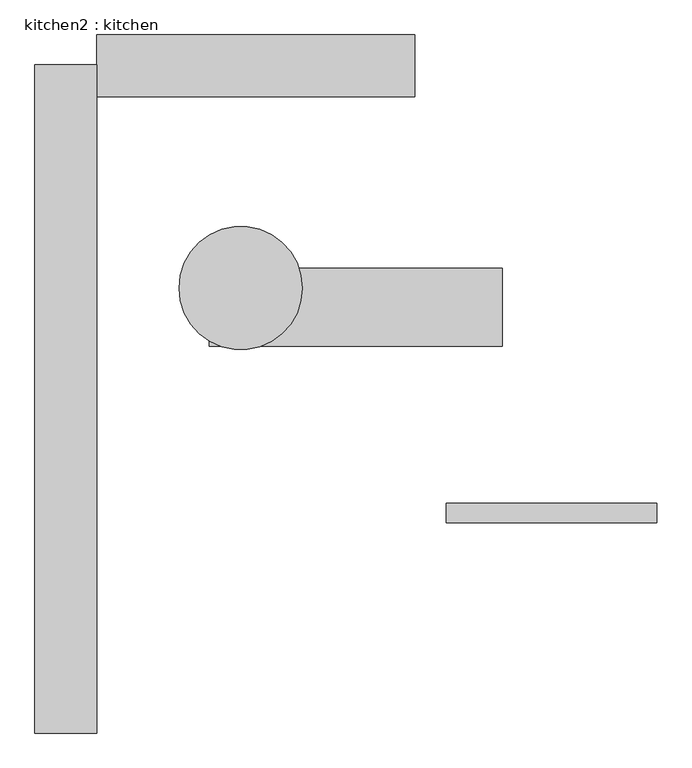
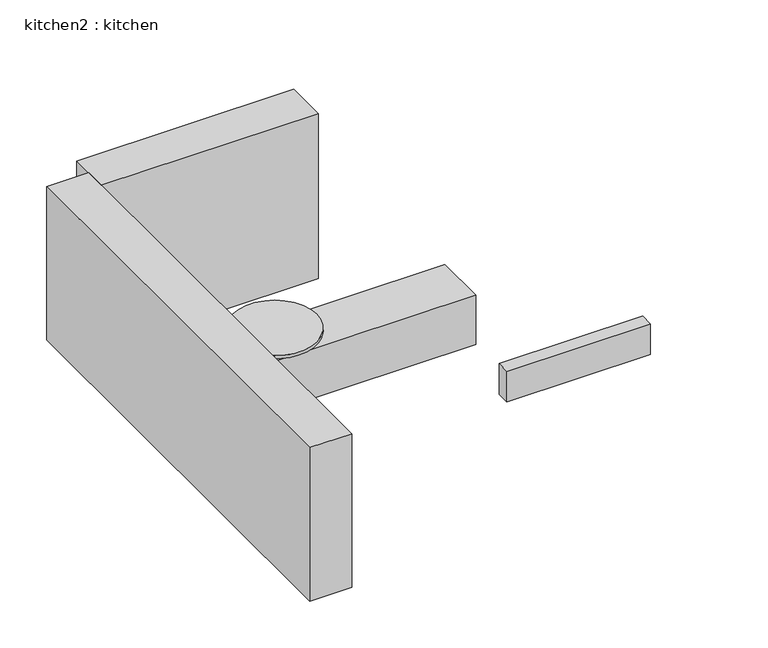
"""IFC4 building model written with IfcOpenShell, lengths in millimetres: proxy geometry, kitchen2 : kitchen."""

from ifc_helpers import new_model, si_unit, point, frame, frame_2d, origin, origin_with_axes, place, context, project, spatial, polyline, circle_curve, trimmed, segment, composite_curve, outline, extrude, source, transform, mapped, element, save


def kitchen2_kitchen_f6e05b14(model_context):
    return source(origin(), model_context, "Body", "SweptSolid", [
        extrude(outline(composite_curve([segment(trimmed(circle_curve(frame_2d((89416.0556586, -40371.1388406)), 20.0), [point((89396.0556586, -40371.1388406))], [point((89436.0556586, -40371.1388406))], False, "CARTESIAN"), True, "CONTINUOUS"), segment(trimmed(circle_curve(frame_2d((89416.0556586, -40371.1388406)), 20.0), [point((89436.0556586, -40371.1388406))], [point((89396.0556586, -40371.1388406))], False, "CARTESIAN"), True, "CONTINUOUS")], self_intersect=False)), origin_with_axes(), (0.0, 0.0, 1.0), 750.0),
        extrude(outline(polyline([(91627.1267853, -42606.9890906), (93677.1267853, -42606.9890906), (93677.1267853, -42797.4205618), (91627.1267853, -42797.4205618), (91627.1267853, -42606.9890906)])), frame((0.0, 0.0, 366.6853524), z_axis=(0.0, 0.0, 1.0), x_axis=(1.0, 0.0, 0.0)), (0.0, 0.0, 1.0), 463.3146476),
        extrude(outline(polyline([(88223.5455637, -38338.529662), (88223.5455637, -44847.0203739), (87622.8142829, -44847.0203739), (87622.8142829, -38338.529662), (88223.5455637, -38338.529662)])), origin_with_axes(), (0.0, 0.0, 1.0), 2319.8522508),
        extrude(outline(polyline([(91323.5455637, -38648.8343253), (88223.5455637, -38648.8343253), (88223.5455637, -38048.8343253), (91323.5455637, -38048.8343253), (91323.5455637, -38648.8343253)])), frame((0.0, 0.0, -180.1477492), z_axis=(0.0, 0.0, 1.0), x_axis=(1.0, 0.0, 0.0)), (0.0, 0.0, 1.0), 2500.0),
        extrude(outline(polyline([(92171.9479258, -40320.028575), (92171.9479258, -41078.8120116), (89322.8142829, -41078.8120116), (89322.8142829, -40320.028575), (92171.9479258, -40320.028575)])), origin_with_axes(), (0.0, 0.0, 1.0), 750.0),
        extrude(outline(composite_curve([segment(trimmed(circle_curve(frame_2d((89626.870939, -40513.5548861)), 600.0), [point((89026.870939, -40513.5548861))], [point((90226.870939, -40513.5548861))], False, "CARTESIAN"), True, "CONTINUOUS"), segment(trimmed(circle_curve(frame_2d((89626.870939, -40513.5548861)), 600.0), [point((90226.870939, -40513.5548861))], [point((89026.870939, -40513.5548861))], False, "CARTESIAN"), True, "CONTINUOUS")], self_intersect=False)), frame((0.0, 0.0, 752.1231185), z_axis=(0.0, 0.0, 1.0), x_axis=(1.0, 0.0, 0.0)), (0.0, 0.0, 1.0), 47.8768815),
    ])


if __name__ == "__main__":
    model = new_model("IFC4")
    model_context = context("Model", 3, world=origin())
    ifc_project = project(units=[si_unit("LENGTHUNIT", "METRE", prefix="MILLI")], contexts=[model_context])
    site = spatial("IfcSite", under=ifc_project)
    building = spatial("IfcBuilding", under=site)
    placement = place(None, origin())
    kitchen2_kitchen_shape = kitchen2_kitchen_f6e05b14(model_context)
    element("IfcBuildingElementProxy", 1, Name="kitchen2 : kitchen", ObjectType="kitchen2 : kitchen", at=placement, inside=building, context=model_context, shape_type="MappedRepresentation", body=[
        mapped(kitchen2_kitchen_shape, transform((0.0, 0.0, 0.0), x_axis=(1.0, 0.0, 0.0), y_axis=(0.0, 1.0, 0.0), z_axis=(0.0, 0.0, 1.0))),
    ])
    save(model, "model.ifc")
